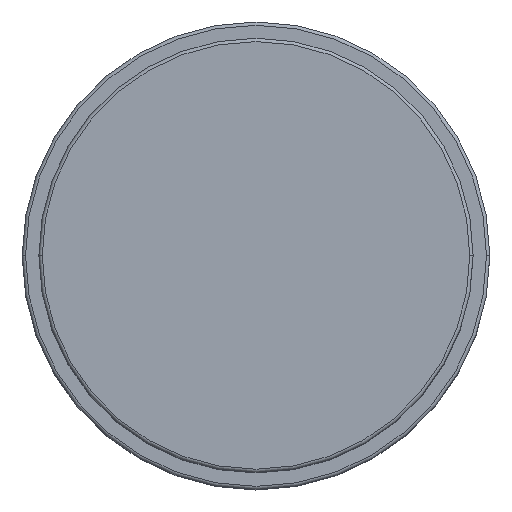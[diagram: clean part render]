
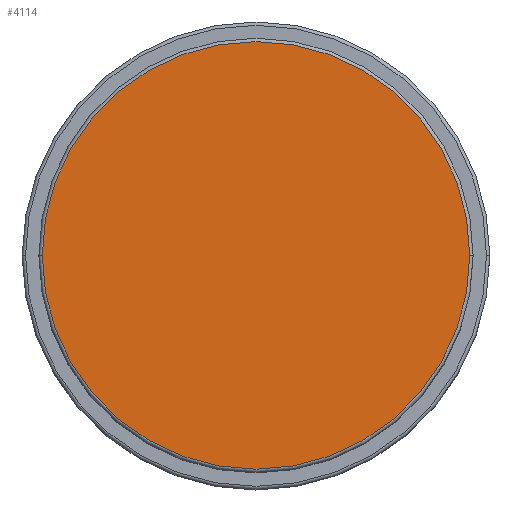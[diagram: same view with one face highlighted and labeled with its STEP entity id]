
A CAD part, top view. The second image highlights one B-rep face of the part: STEP entity #4114.
In plain terms, the highlighted planar face has unit normal (0, 0, 1).
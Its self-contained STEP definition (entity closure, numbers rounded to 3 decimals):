
#227 = AXIS2_PLACEMENT_3D ( 'NONE', #2086, #5037, #2515 ) ;
#409 = CIRCLE ( 'NONE', #2099, 32. ) ;
#995 = EDGE_CURVE ( 'NONE', #4742, #1153, #409, .T. ) ;
#1153 = VERTEX_POINT ( 'NONE', #4314 ) ;
#1940 = DIRECTION ( 'NONE',  ( 0., 0., 1. ) ) ;
#1988 = AXIS2_PLACEMENT_3D ( 'NONE', #2765, #1940, #5295 ) ;
#2086 = CARTESIAN_POINT ( 'NONE',  ( 0., 0., 67. ) ) ;
#2099 = AXIS2_PLACEMENT_3D ( 'NONE', #3010, #3027, #4730 ) ;
#2323 = CIRCLE ( 'NONE', #227, 32. ) ;
#2515 = DIRECTION ( 'NONE',  ( 1., 0., 0. ) ) ;
#2519 = ORIENTED_EDGE ( 'NONE', *, *, #995, .T. ) ;
#2699 = CARTESIAN_POINT ( 'NONE',  ( 32., 0., 67. ) ) ;
#2765 = CARTESIAN_POINT ( 'NONE',  ( 0., 0., 67. ) ) ;
#3010 = CARTESIAN_POINT ( 'NONE',  ( 0., 0., 67. ) ) ;
#3027 = DIRECTION ( 'NONE',  ( 0., 0., 1. ) ) ;
#3034 = ORIENTED_EDGE ( 'NONE', *, *, #3921, .T. ) ;
#3176 = EDGE_LOOP ( 'NONE', ( #2519, #3034 ) ) ;
#3921 = EDGE_CURVE ( 'NONE', #1153, #4742, #2323, .T. ) ;
#4034 = FACE_OUTER_BOUND ( 'NONE', #3176, .T. ) ;
#4114 = ADVANCED_FACE ( 'NONE', ( #4034 ), #4911, .T. ) ;
#4314 = CARTESIAN_POINT ( 'NONE',  ( -32., 0., 67. ) ) ;
#4730 = DIRECTION ( 'NONE',  ( 1., 0., 0. ) ) ;
#4742 = VERTEX_POINT ( 'NONE', #2699 ) ;
#4911 = PLANE ( 'NONE',  #1988 ) ;
#5037 = DIRECTION ( 'NONE',  ( 0., 0., 1. ) ) ;
#5295 = DIRECTION ( 'NONE',  ( 1., 0., 0. ) ) ;
